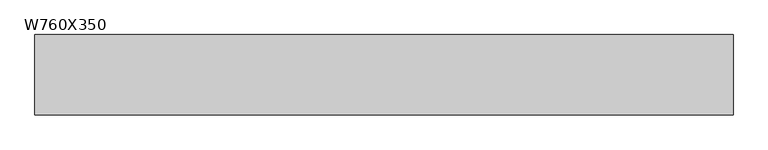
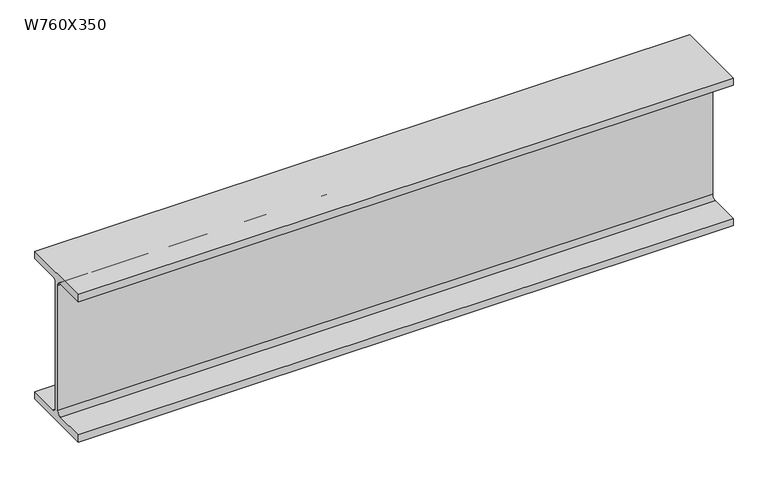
"""IFC4 building model written with IfcOpenShell, lengths in millimetres: beam geometry, M_W-Wide Flange : W760X350."""

import ifcopenshell
import ifcopenshell.guid

model = None  # the IFC model being written
_history = None  # IfcOwnerHistory: only IFC2X3 demands one
_inside = {}  # id of a spatial element -> (the spatial element, [elements in it])
_under = {}  # id of a project, library or spatial element -> (it, [spatial elements below it])
_declared = {}  # id of a project -> (the project, [libraries it declares])
_typed = {}  # id of a type object -> (the type object, [elements of that type])
_made_of = {}  # id of a material, layer set ... -> (it, [elements and type objects made of it])


def new_model(schema):
    """Start an empty IFC model of exactly this schema.

    Asked for "IFC4X3", IfcOpenShell would pick the latest addendum, in which some entities
    have other attributes; the version numbers below select the first issue.
    IFC2X3 requires an IfcOwnerHistory on every rooted entity: one is made here for all.
    """
    global model, _history
    if schema == "IFC4X3":
        model = ifcopenshell.file(schema_version=(4, 3, 0, 0))
    else:
        model = ifcopenshell.file(schema=schema)
    _inside.clear()
    _under.clear()
    _declared.clear()
    _typed.clear()
    _made_of.clear()
    _history = None
    if model.schema == "IFC2X3":
        org = make("IfcOrganization", Name="unknown")
        user = make(
            "IfcPersonAndOrganization",
            ThePerson=make("IfcPerson", FamilyName="unknown"),
            TheOrganization=org,
        )
        app = make(
            "IfcApplication",
            ApplicationDeveloper=org,
            Version="unknown",
            ApplicationFullName="unknown",
            ApplicationIdentifier="unknown",
        )
        _history = make(
            "IfcOwnerHistory",
            OwningUser=user,
            OwningApplication=app,
            ChangeAction="ADDED",
            CreationDate=0,
        )
    return model


def make(cls, **values):
    """One entity of the class cls with the attributes given. An attribute that is None is left unset."""
    return model.create_entity(
        cls, **{name: value for name, value in values.items() if value is not None}
    )


def rooted(cls, **values):
    """An entity with a GlobalId (a new one), such as an element, a storey or a relation."""
    return make(cls, GlobalId=ifcopenshell.guid.new(), OwnerHistory=_history, **values)


def si_unit(unit_type, name, prefix=None):
    """IfcSIUnit, for example si_unit("LENGTHUNIT", "METRE", prefix="MILLI")."""
    return make("IfcSIUnit", UnitType=unit_type, Prefix=prefix, Name=name)


def assignment(units):
    """IfcUnitAssignment: the units of a project."""
    return None if units is None else make("IfcUnitAssignment", Units=units)


def point(xyz):
    """IfcCartesianPoint."""
    return None if xyz is None else make("IfcCartesianPoint", Coordinates=xyz)


def direction(xyz):
    """IfcDirection."""
    return None if xyz is None else make("IfcDirection", DirectionRatios=xyz)


def frame(location, z_axis=None, x_axis=None):
    """IfcAxis2Placement3D, a coordinate frame: its origin and axes. An axis left out is left unset."""
    return make(
        "IfcAxis2Placement3D",
        Location=point(location),
        Axis=direction(z_axis),
        RefDirection=direction(x_axis),
    )


def frame_2d(location, x_axis=None):
    """IfcAxis2Placement2D, a coordinate frame in the plane: its origin and x axis."""
    return make(
        "IfcAxis2Placement2D", Location=point(location), RefDirection=direction(x_axis)
    )


def origin():
    """The frame at (0, 0, 0) with its axes left unset."""
    return frame((0.0, 0.0, 0.0))


def place(relative_to, where):
    """IfcLocalPlacement: puts the frame where relative to a parent placement (None: the world)."""
    return make(
        "IfcLocalPlacement", PlacementRelTo=relative_to, RelativePlacement=where
    )


def context(
    kind, dimensions, precision=None, world=None, true_north=None, identifier=None
):
    """IfcGeometricRepresentationContext, for example the 3D "Model" context."""
    return make(
        "IfcGeometricRepresentationContext",
        ContextIdentifier=identifier,
        ContextType=kind,
        CoordinateSpaceDimension=dimensions,
        Precision=precision,
        WorldCoordinateSystem=world,
        TrueNorth=true_north,
    )


def project(units=None, contexts=None):
    """IfcProject with its units and contexts."""
    return rooted(
        "IfcProject",
        Name="project",
        RepresentationContexts=contexts,
        UnitsInContext=assignment(units),
    )


def spatial(cls, under=None, at=None, **own):
    """A site, building, storey or space (cls), placed at a placement, below another one or the project."""
    s = rooted(cls, ObjectPlacement=at, **own)
    if under is not None:
        _under.setdefault(under.id(), (under, []))[1].append(s)
    return s


def polyline(points):
    """IfcPolyline through the points."""
    return make("IfcPolyline", Points=[point(p) for p in points])


def circle_curve(where, radius):
    """IfcCircle in the frame where."""
    return make("IfcCircle", Position=where, Radius=radius)


def trimmed(basis, trim1, trim2, sense, master):
    """IfcTrimmedCurve: the piece of a basis curve between two trims."""
    return make(
        "IfcTrimmedCurve",
        BasisCurve=basis,
        Trim1=trim1,
        Trim2=trim2,
        SenseAgreement=sense,
        MasterRepresentation=master,
    )


def segment(curve, same_sense, transition):
    """IfcCompositeCurveSegment."""
    return make(
        "IfcCompositeCurveSegment",
        Transition=transition,
        SameSense=same_sense,
        ParentCurve=curve,
    )


def composite_curve(segments, self_intersect=None):
    """IfcCompositeCurve: segments joined end to end."""
    return make("IfcCompositeCurve", Segments=segments, SelfIntersect=self_intersect)


def outline(outer, holes=None, kind="AREA"):
    """IfcArbitraryClosedProfileDef: a profile drawn as a closed curve; with holes, ...WithVoids."""
    if holes is None:
        return make("IfcArbitraryClosedProfileDef", ProfileType=kind, OuterCurve=outer)
    return make(
        "IfcArbitraryProfileDefWithVoids",
        ProfileType=kind,
        OuterCurve=outer,
        InnerCurves=holes,
    )


def extrude(swept, where, along, depth):
    """IfcExtrudedAreaSolid: the profile swept, set in the frame where, extruded along a direction by depth."""
    return make(
        "IfcExtrudedAreaSolid",
        SweptArea=swept,
        Position=where,
        ExtrudedDirection=direction(along),
        Depth=depth,
    )


def shape(context_of_items, identifier, shape_type, items):
    """IfcShapeRepresentation: the items that make up one representation, for example the "Body"."""
    return make(
        "IfcShapeRepresentation",
        ContextOfItems=context_of_items,
        RepresentationIdentifier=identifier,
        RepresentationType=shape_type,
        Items=items,
    )


def source(mapping_origin, context_of_items, identifier, shape_type, items):
    """IfcRepresentationMap: a shape defined once, which mapped items show again and again."""
    return make(
        "IfcRepresentationMap",
        MappingOrigin=mapping_origin,
        MappedRepresentation=shape(context_of_items, identifier, shape_type, items),
    )


def transform(
    local_origin,
    x_axis=None,
    y_axis=None,
    z_axis=None,
    scale=None,
    scale2=None,
    scale3=None,
    uniform=True,
):
    """IfcCartesianTransformationOperator3D, or its non-uniform kind. x_axis, y_axis, z_axis: its Axis1, 2, 3."""
    if uniform:
        return make(
            "IfcCartesianTransformationOperator3D",
            Axis1=direction(x_axis),
            Axis2=direction(y_axis),
            LocalOrigin=point(local_origin),
            Scale=scale,
            Axis3=direction(z_axis),
        )
    return make(
        "IfcCartesianTransformationOperator3DnonUniform",
        Axis1=direction(x_axis),
        Axis2=direction(y_axis),
        LocalOrigin=point(local_origin),
        Scale=scale,
        Axis3=direction(z_axis),
        Scale2=scale2,
        Scale3=scale3,
    )


def mapped(mapping_source, mapping_target):
    """IfcMappedItem: shows the shape of a source again, moved by a transform."""
    return make(
        "IfcMappedItem", MappingSource=mapping_source, MappingTarget=mapping_target
    )


def made_of(thing, what):
    """Note that an element or type object is made of a material, layer set ...; save() writes the relation."""
    if what is not None:
        _made_of.setdefault(what.id(), (what, []))[1].append(thing)
    return thing


def element(
    cls,
    number,
    at=None,
    inside=None,
    cuts=None,
    type_object=None,
    material=None,
    context=None,
    identifier="Body",
    shape_type=None,
    held_by="IfcProductDefinitionShape",
    body=None,
    shapes=None,
    **own,
):
    """One element of the class cls, such as IfcWall. Its Tag is "e" and its number.

    at: its placement. inside: the storey or other place that contains it. cuts: it is an
    opening in that element (IfcRelVoidsElement). A single representation is given by context,
    identifier, shape_type and body (its items); several are given by shapes. held_by: the class
    of the entity that holds the representations. save() writes the other relations.
    """
    e = rooted(cls, Tag="e%d" % number, ObjectPlacement=at, **own)
    if body is not None:
        shapes = [shape(context, identifier, shape_type, body)]
    if shapes is not None:
        e.Representation = make(held_by, Representations=shapes)
    if inside is not None:
        _inside.setdefault(inside.id(), (inside, []))[1].append(e)
    if cuts is not None:
        rooted(
            "IfcRelVoidsElement", RelatingBuildingElement=cuts, RelatedOpeningElement=e
        )
    if type_object is not None:
        _typed.setdefault(type_object.id(), (type_object, []))[1].append(e)
    return made_of(e, material)


def aggregate(whole, parts):
    """IfcRelAggregates: a whole, such as a stair, and the parts it consists of."""
    return rooted("IfcRelAggregates", RelatingObject=whole, RelatedObjects=parts)


def save(model, path):
    """Write the relations noted so far, then the file.

    IfcRelAggregates (storeys below a building ...), IfcRelContainedInSpatialStructure (elements
    in a storey), IfcRelDefinesByType, IfcRelAssociatesMaterial and IfcRelDeclares: one each for
    every whole, place, type object, material and project.
    """
    for whole, parts in _under.values():
        aggregate(whole, parts)
    for where, things in _inside.values():
        rooted(
            "IfcRelContainedInSpatialStructure",
            RelatedElements=things,
            RelatingStructure=where,
        )
    for kind, things in _typed.values():
        rooted("IfcRelDefinesByType", RelatedObjects=things, RelatingType=kind)
    for what, things in _made_of.values():
        rooted("IfcRelAssociatesMaterial", RelatedObjects=things, RelatingMaterial=what)
    for by, libraries in _declared.values():
        rooted("IfcRelDeclares", RelatingContext=by, RelatedDefinitions=libraries)
    model.write(path)


def w760x350_f967bb8b(model_context):
    return source(origin(), model_context, "Body", "SweptSolid", [
        extrude(outline(composite_curve([segment(polyline([(192.0, -359.4), (192.0, -397.5), (-192.0, -397.5), (-192.0, -359.4), (-32.75, -359.4)]), True, "CONTINUOUS"), segment(trimmed(circle_curve(frame_2d((-32.75, -337.2)), 22.2), [point((-32.75, -359.4))], [point((-10.55, -337.2))], True, "CARTESIAN"), True, "CONTINUOUS"), segment(polyline([(-10.55, -337.2), (-10.55, 337.2)]), True, "CONTINUOUS"), segment(trimmed(circle_curve(frame_2d((-32.75, 337.2)), 22.2), [point((-10.55, 337.2))], [point((-32.75, 359.4))], True, "CARTESIAN"), True, "CONTINUOUS"), segment(polyline([(-32.75, 359.4), (-192.0, 359.4), (-192.0, 397.5), (192.0, 397.5), (192.0, 359.4), (32.75, 359.4)]), True, "CONTINUOUS"), segment(trimmed(circle_curve(frame_2d((32.75, 337.2)), 22.2), [point((32.75, 359.4))], [point((10.55, 337.2))], True, "CARTESIAN"), True, "CONTINUOUS"), segment(polyline([(10.55, 337.2), (10.55, -337.2)]), True, "CONTINUOUS"), segment(trimmed(circle_curve(frame_2d((32.75, -337.2)), 22.2), [point((10.55, -337.2))], [point((32.75, -359.4))], True, "CARTESIAN"), True, "CONTINUOUS"), segment(polyline([(32.75, -359.4), (192.0, -359.4)]), True, "CONTINUOUS")], self_intersect=False)), frame((-1803.9820617, 0.0, 0.0), z_axis=(1.0, 0.0, 0.0), x_axis=(0.0, 1.0, 0.0)), (0.0, 0.0, 1.0), 3335.6188391),
    ])


if __name__ == "__main__":
    model = new_model("IFC4")
    model_context = context("Model", 3, world=origin())
    ifc_project = project(units=[si_unit("LENGTHUNIT", "METRE", prefix="MILLI")], contexts=[model_context])
    site = spatial("IfcSite", under=ifc_project)
    building = spatial("IfcBuilding", under=site)
    placement = place(None, origin())
    w760x350_shape = w760x350_f967bb8b(model_context)
    element("IfcBeam", 1, ObjectType="M_W-Wide Flange : W760X350", at=placement, inside=building, context=model_context, shape_type="MappedRepresentation", body=[
        mapped(w760x350_shape, transform((0.0, 0.0, 0.0), x_axis=(1.0, 0.0, 0.0), y_axis=(0.0, 1.0, 0.0), z_axis=(0.0, 0.0, 1.0))),
    ])
    save(model, "model.ifc")
